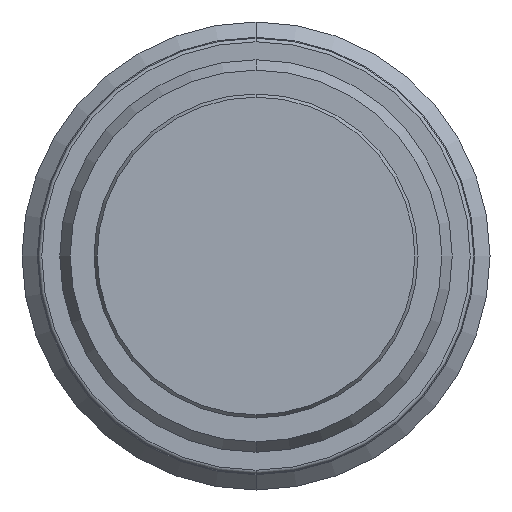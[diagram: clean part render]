
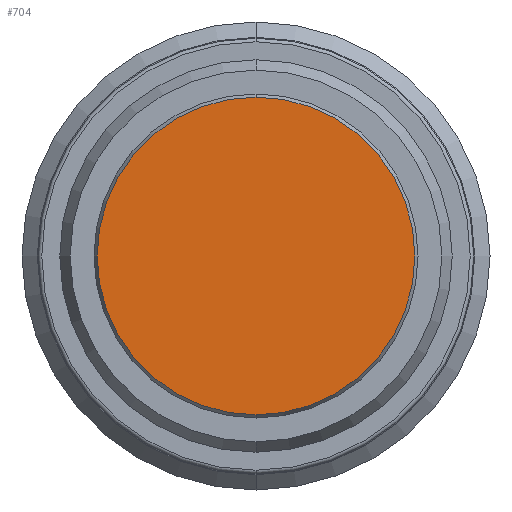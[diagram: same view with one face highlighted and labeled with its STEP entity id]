
A CAD part, front view. The second image highlights one B-rep face of the part: STEP entity #704.
In plain terms, the highlighted planar face has unit normal (0, -1, 0).
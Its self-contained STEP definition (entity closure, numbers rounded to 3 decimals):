
#207=PLANE('',#2937);
#704=ADVANCED_FACE('',(#902),#207,.T.);
#902=FACE_OUTER_BOUND('',#1061,.T.);
#1061=EDGE_LOOP('',(#1419,#1420));
#1419=ORIENTED_EDGE('',*,*,#2231,.F.);
#1420=ORIENTED_EDGE('',*,*,#2338,.F.);
#1991=VERTEX_POINT('',#4146);
#1992=VERTEX_POINT('',#4147);
#2231=EDGE_CURVE('',#1991,#1992,#2624,.T.);
#2338=EDGE_CURVE('',#1992,#1991,#2675,.T.);
#2624=CIRCLE('',#2841,8.827);
#2675=CIRCLE('',#2935,8.827);
#2841=AXIS2_PLACEMENT_3D('',#4145,#3243,#3244);
#2935=AXIS2_PLACEMENT_3D('',#4419,#3467,#3468);
#2937=AXIS2_PLACEMENT_3D('',#4421,#3471,#3472);
#3243=DIRECTION('',(0.,1.,0.));
#3244=DIRECTION('',(0.,0.,1.));
#3467=DIRECTION('',(0.,1.,0.));
#3468=DIRECTION('',(0.,0.,1.));
#3471=DIRECTION('',(0.,-1.,0.));
#3472=DIRECTION('',(0.,0.,-1.));
#4145=CARTESIAN_POINT('',(0.,-2.5,0.));
#4146=CARTESIAN_POINT('',(0.,-2.5,8.827));
#4147=CARTESIAN_POINT('',(0.,-2.5,-8.827));
#4419=CARTESIAN_POINT('',(0.,-2.5,0.));
#4421=CARTESIAN_POINT('',(0.,-2.5,0.));
